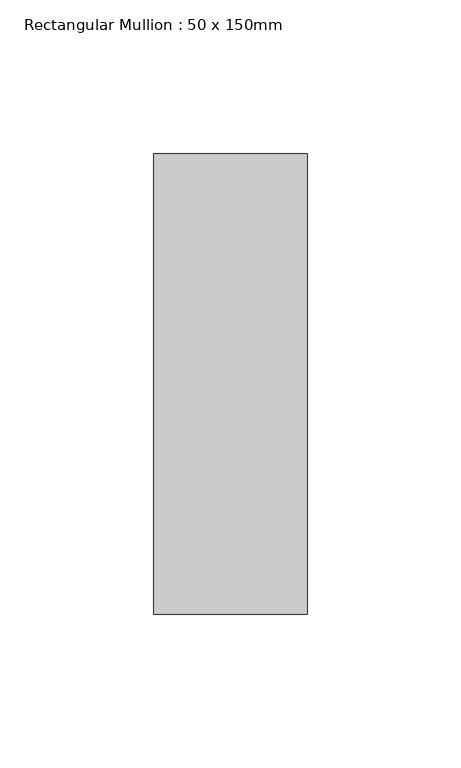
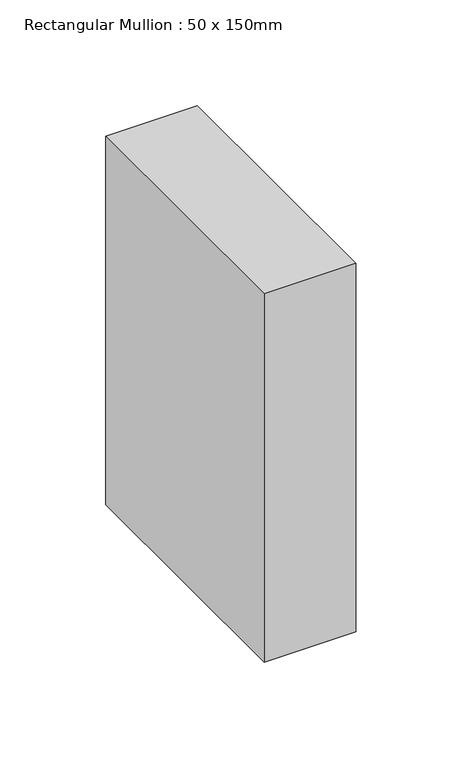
"""IFC4 building model written with IfcOpenShell, lengths in millimetres: member geometry, Rectangular Mullion : 50 x 150mm."""

from ifc_helpers import new_model, si_unit, frame, origin, place, context, project, spatial, polyline, outline, extrude, source, transform, mapped, element, save


def rectangular_mullion_50_x_150mm_3cb4852b(model_context):
    return source(origin(), model_context, "Body", "SweptSolid", [
        extrude(outline(polyline([(0.0, 0.0), (-0.0378256, -50.0), (-212.8631754, -50.0), (-212.9007163, 0.0), (0.0, 0.0)])), frame((0.0, -75.0, 0.0), z_axis=(0.0, 1.0, 0.0), x_axis=(0.0, 0.0, 1.0)), (0.0, 0.0, 1.0), 150.0),
    ])


if __name__ == "__main__":
    model = new_model("IFC4")
    model_context = context("Model", 3, world=origin())
    ifc_project = project(units=[si_unit("LENGTHUNIT", "METRE", prefix="MILLI")], contexts=[model_context])
    site = spatial("IfcSite", under=ifc_project)
    building = spatial("IfcBuilding", under=site)
    placement = place(None, origin())
    rectangular_mullion_50_x_150mm_shape = rectangular_mullion_50_x_150mm_3cb4852b(model_context)
    element("IfcMember", 1, ObjectType="Rectangular Mullion : 50 x 150mm", at=placement, inside=building, context=model_context, shape_type="MappedRepresentation", body=[
        mapped(rectangular_mullion_50_x_150mm_shape, transform((0.0, 0.0, 0.0), x_axis=(1.0, 0.0, 0.0), y_axis=(0.0, 1.0, 0.0), z_axis=(0.0, 0.0, 1.0))),
    ])
    save(model, "model.ifc")
